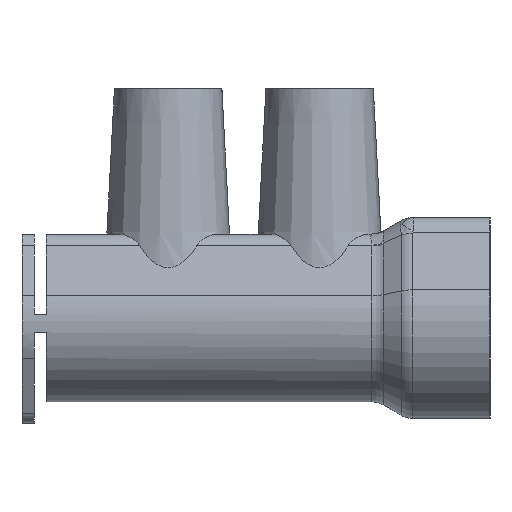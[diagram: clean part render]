
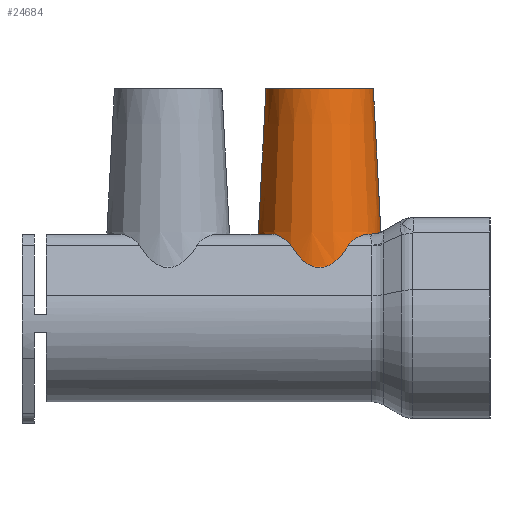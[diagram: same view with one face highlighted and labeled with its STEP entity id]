
A CAD part, left-side view. The second image highlights one B-rep face of the part: STEP entity #24684.
In plain terms, the highlighted conical face has half-angle 3 degrees and reference radius 3.55 mm.
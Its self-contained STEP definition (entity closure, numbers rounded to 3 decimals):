
#385=B_SPLINE_CURVE_WITH_KNOTS('',3,(#38264,#38265,#38266,#38267,#38268),
 .UNSPECIFIED.,.F.,.F.,(4,1,4),(0.,0.001,
0.002),.UNSPECIFIED.);
#386=B_SPLINE_CURVE_WITH_KNOTS('',3,(#38272,#38273,#38274,#38275,#38276),
 .UNSPECIFIED.,.F.,.F.,(4,1,4),(0.,0.001,
0.002),.UNSPECIFIED.);
#388=B_SPLINE_CURVE_WITH_KNOTS('',3,(#38291,#38292,#38293,#38294,#38295),
 .UNSPECIFIED.,.F.,.F.,(4,1,4),(0.,0.001,
0.002),.UNSPECIFIED.);
#389=B_SPLINE_CURVE_WITH_KNOTS('',3,(#38300,#38301,#38302,#38303,#38304),
 .UNSPECIFIED.,.F.,.F.,(4,1,4),(0.,0.001,
0.002),.UNSPECIFIED.);
#391=B_SPLINE_CURVE_WITH_KNOTS('',3,(#38333,#38334,#38335,#38336,#38337),
 .UNSPECIFIED.,.F.,.F.,(4,1,4),(0.003,0.005,
0.007),.UNSPECIFIED.);
#757=CONICAL_SURFACE('',#26602,3.55,0.052);
#825=ELLIPSE('',#26178,10.403,3.623);
#847=ELLIPSE('',#26457,10.403,3.623);
#2050=CIRCLE('',#26428,4.053);
#2051=CIRCLE('',#26430,4.053);
#2052=CIRCLE('',#26432,4.053);
#2133=CIRCLE('',#26603,3.55);
#4783=ORIENTED_EDGE('',*,*,#11542,.F.);
#4784=ORIENTED_EDGE('',*,*,#11524,.F.);
#4785=ORIENTED_EDGE('',*,*,#11592,.F.);
#4786=ORIENTED_EDGE('',*,*,#11534,.F.);
#4787=ORIENTED_EDGE('',*,*,#11546,.F.);
#4788=ORIENTED_EDGE('',*,*,#11547,.T.);
#4789=ORIENTED_EDGE('',*,*,#11543,.F.);
#4790=ORIENTED_EDGE('',*,*,#11526,.F.);
#4791=ORIENTED_EDGE('',*,*,#11201,.F.);
#4792=ORIENTED_EDGE('',*,*,#11532,.F.);
#4793=ORIENTED_EDGE('',*,*,#11770,.T.);
#11201=EDGE_CURVE('',#14979,#14980,#825,.F.);
#11524=EDGE_CURVE('',#15168,#15169,#385,.T.);
#11526=EDGE_CURVE('',#14980,#15170,#386,.T.);
#11532=EDGE_CURVE('',#15174,#14979,#388,.T.);
#11534=EDGE_CURVE('',#15175,#15177,#389,.T.);
#11542=EDGE_CURVE('',#15169,#15174,#2050,.F.);
#11543=EDGE_CURVE('',#15170,#15183,#2051,.F.);
#11546=EDGE_CURVE('',#15184,#15175,#2052,.F.);
#11547=EDGE_CURVE('',#15184,#15183,#391,.F.);
#11592=EDGE_CURVE('',#15177,#15168,#847,.F.);
#11770=EDGE_CURVE('',#15307,#15307,#2133,.T.);
#14979=VERTEX_POINT('',#37054);
#14980=VERTEX_POINT('',#37056);
#15168=VERTEX_POINT('',#38263);
#15169=VERTEX_POINT('',#38269);
#15170=VERTEX_POINT('',#38277);
#15174=VERTEX_POINT('',#38290);
#15175=VERTEX_POINT('',#38298);
#15177=VERTEX_POINT('',#38305);
#15183=VERTEX_POINT('',#38326);
#15184=VERTEX_POINT('',#38330);
#15307=VERTEX_POINT('',#39281);
#21147=EDGE_LOOP('',(#4783,#4784,#4785,#4786,#4787,#4788,#4789,#4790,#4791,
#4792));
#21148=EDGE_LOOP('',(#4793));
#22733=FACE_BOUND('',#21147,.T.);
#22734=FACE_BOUND('',#21148,.T.);
#24684=ADVANCED_FACE('',(#22733,#22734),#757,.T.);
#26178=AXIS2_PLACEMENT_3D('',#37055,#29459,#29460);
#26428=AXIS2_PLACEMENT_3D('',#38323,#30121,#30122);
#26430=AXIS2_PLACEMENT_3D('',#38325,#30125,#30126);
#26432=AXIS2_PLACEMENT_3D('',#38331,#30131,#30132);
#26457=AXIS2_PLACEMENT_3D('',#38437,#30207,#30208);
#26602=AXIS2_PLACEMENT_3D('',#39279,#30570,#30571);
#26603=AXIS2_PLACEMENT_3D('',#39280,#30572,#30573);
#29459=DIRECTION('',(0.936,0.,0.352));
#29460=DIRECTION('',(0.352,0.,-0.936));
#30121=DIRECTION('',(0.,0.,1.));
#30122=DIRECTION('',(1.,0.,0.));
#30125=DIRECTION('',(0.,0.,1.));
#30126=DIRECTION('',(1.,0.,0.));
#30131=DIRECTION('',(0.,0.,1.));
#30132=DIRECTION('',(1.,0.,0.));
#30207=DIRECTION('',(-0.936,0.,0.352));
#30208=DIRECTION('',(-0.352,0.,-0.936));
#30570=DIRECTION('',(0.,0.,-1.));
#30571=DIRECTION('',(1.,0.,0.));
#30572=DIRECTION('',(0.,0.,-1.));
#30573=DIRECTION('',(-1.,0.,0.));
#37054=CARTESIAN_POINT('',(3.63,13.142,4.772));
#37055=CARTESIAN_POINT('',(0.51,11.25,13.077));
#37056=CARTESIAN_POINT('',(3.63,9.358,4.772));
#38263=CARTESIAN_POINT('',(-3.63,13.142,4.772));
#38264=CARTESIAN_POINT('',(-3.63,13.142,4.772));
#38265=CARTESIAN_POINT('',(-3.529,13.305,5.041));
#38266=CARTESIAN_POINT('',(-3.219,13.785,5.388));
#38267=CARTESIAN_POINT('',(-2.765,14.232,5.55));
#38268=CARTESIAN_POINT('',(-2.507,14.435,5.55));
#38269=CARTESIAN_POINT('',(-2.507,14.435,5.55));
#38272=CARTESIAN_POINT('',(3.63,9.358,4.772));
#38273=CARTESIAN_POINT('',(3.529,9.195,5.041));
#38274=CARTESIAN_POINT('',(3.219,8.715,5.388));
#38275=CARTESIAN_POINT('',(2.765,8.268,5.55));
#38276=CARTESIAN_POINT('',(2.507,8.065,5.55));
#38277=CARTESIAN_POINT('',(2.507,8.065,5.55));
#38290=CARTESIAN_POINT('',(2.507,14.435,5.55));
#38291=CARTESIAN_POINT('',(2.507,14.435,5.55));
#38292=CARTESIAN_POINT('',(2.764,14.232,5.55));
#38293=CARTESIAN_POINT('',(3.218,13.787,5.389));
#38294=CARTESIAN_POINT('',(3.53,13.304,5.039));
#38295=CARTESIAN_POINT('',(3.63,13.142,4.772));
#38298=CARTESIAN_POINT('',(-2.507,8.065,5.55));
#38300=CARTESIAN_POINT('',(-2.507,8.065,5.55));
#38301=CARTESIAN_POINT('',(-2.764,8.268,5.55));
#38302=CARTESIAN_POINT('',(-3.218,8.713,5.389));
#38303=CARTESIAN_POINT('',(-3.53,9.196,5.039));
#38304=CARTESIAN_POINT('',(-3.63,9.358,4.772));
#38305=CARTESIAN_POINT('',(-3.63,9.358,4.772));
#38323=CARTESIAN_POINT('',(0.,11.25,5.55));
#38325=CARTESIAN_POINT('',(0.,11.25,5.55));
#38326=CARTESIAN_POINT('',(2.139,7.807,5.55));
#38330=CARTESIAN_POINT('',(-2.139,7.807,5.55));
#38331=CARTESIAN_POINT('',(0.,11.25,5.55));
#38333=CARTESIAN_POINT('',(2.139,7.807,5.55));
#38334=CARTESIAN_POINT('',(1.494,7.406,5.55));
#38335=CARTESIAN_POINT('',(0.006,6.998,5.804));
#38336=CARTESIAN_POINT('',(-1.501,7.411,5.55));
#38337=CARTESIAN_POINT('',(-2.139,7.807,5.55));
#38437=CARTESIAN_POINT('',(-0.51,11.25,13.077));
#39279=CARTESIAN_POINT('',(0.,11.25,15.15));
#39280=CARTESIAN_POINT('',(0.,11.25,15.15));
#39281=CARTESIAN_POINT('',(-3.55,11.25,15.15));
